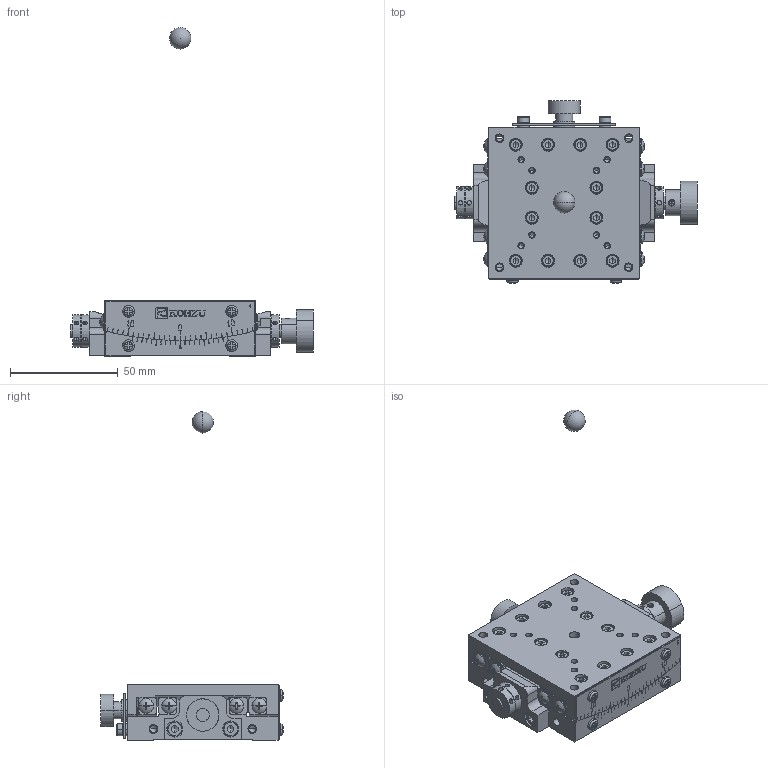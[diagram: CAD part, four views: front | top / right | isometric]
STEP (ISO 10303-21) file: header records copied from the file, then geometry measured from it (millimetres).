
FILE_DESCRIPTION (( 'STEP AP203' ), '1' );
FILE_NAME ('SH07A-RB.STEP', '2015-05-12T03:53:55', ( '' ), ( '' ), 'SwSTEP 2.0', 'SolidWorks 2011', '' );
FILE_SCHEMA (( 'CONFIG_CONTROL_DESIGN' ));
Products named in the file (4): SH07A-RB; rotation-center-16; base-23; table-17
Assembly tree (3 placements, depth 2):
  SH07A-RB
    base-23
    table-17
    rotation-center-16
Bounding box: 113 x 84.96 x 153 mm (x, y, z)
Volume: 126331.1 mm3; surface area: 52351.6 mm2
Topology: 3 solids, 47 shells, 2327 faces, 5587 edges, 3385 vertices
Faces by surface type: plane 1137, cylinder 745, cone 357, torus 56, sphere 26, bspline 6
Entity records: 70802 total; most frequent: CARTESIAN_POINT 15938, DIRECTION 11894, ORIENTED_EDGE 10900, EDGE_CURVE 5450, AXIS2_PLACEMENT_3D 4442, VERTEX_POINT 3382, VECTOR 3010, LINE 3010
